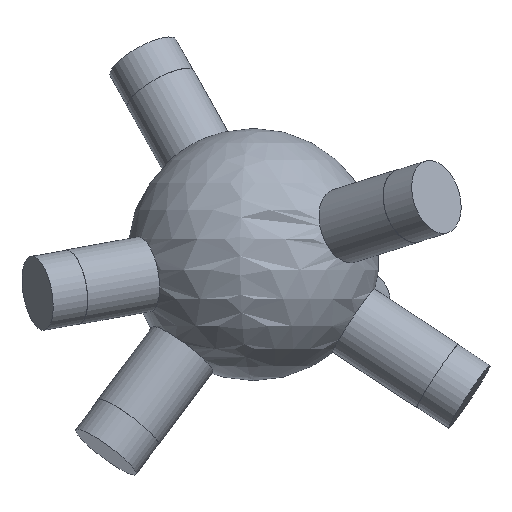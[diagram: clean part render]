
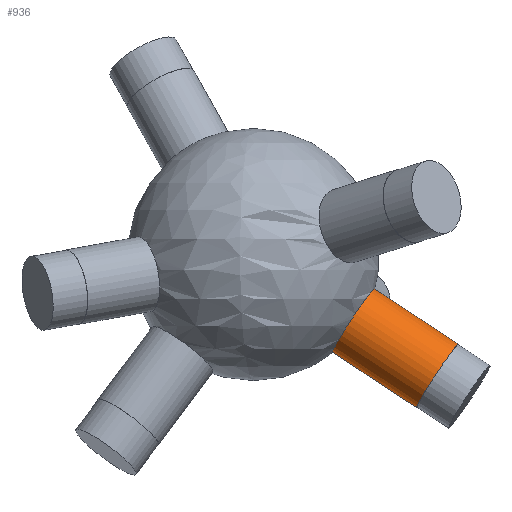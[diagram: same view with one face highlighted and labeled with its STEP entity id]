
A CAD part, left-side view. The second image highlights one B-rep face of the part: STEP entity #936.
In plain terms, the highlighted cylindrical face has radius 6 mm (diameter 12 mm), a full revolution.
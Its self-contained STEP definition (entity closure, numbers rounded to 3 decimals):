
#33 = SPHERICAL_SURFACE('',#34,20.);
#34 = AXIS2_PLACEMENT_3D('',#35,#36,#37);
#35 = CARTESIAN_POINT('',(0.,0.,0.));
#36 = DIRECTION('',(0.,0.,1.));
#37 = DIRECTION('',(1.,0.,-0.));
#400 = EDGE_CURVE('',#401,#401,#403,.T.);
#401 = VERTEX_POINT('',#402);
#402 = CARTESIAN_POINT('',(-1.242,-12.602,
    -15.48));
#403 = SURFACE_CURVE('',#404,(#409,#478),.PCURVE_S1.);
#404 = CIRCLE('',#405,6.);
#405 = AXIS2_PLACEMENT_3D('',#406,#407,#408);
#406 = CARTESIAN_POINT('',(-1.242,-15.902,
    -10.469));
#407 = DIRECTION('',(-0.065,-0.833,-0.549
    ));
#408 = DIRECTION('',(0.,0.55,-0.835)
  );
#409 = PCURVE('',#33,#410);
#410 = DEFINITIONAL_REPRESENTATION('',(#411),#477);
#411 = B_SPLINE_CURVE_WITH_KNOTS('',8,(#412,#413,#414,#415,#416,#417,
    #418,#419,#420,#421,#422,#423,#424,#425,#426,#427,#428,#429,#430,
    #431,#432,#433,#434,#435,#436,#437,#438,#439,#440,#441,#442,#443,
    #444,#445,#446,#447,#448,#449,#450,#451,#452,#453,#454,#455,#456,
    #457,#458,#459,#460,#461,#462,#463,#464,#465,#466,#467,#468,#469,
    #470,#471,#472,#473,#474,#475,#476),.UNSPECIFIED.,.T.,.F.,(9,7,7,7,7
    ,7,7,7,7,9),(0.,0.393,1.129,1.773,
    2.901,3.746,4.381,5.332,
    5.808,6.283),.UNSPECIFIED.);
#412 = CARTESIAN_POINT('',(4.614,-0.885));
#413 = CARTESIAN_POINT('',(4.637,-0.886));
#414 = CARTESIAN_POINT('',(4.661,-0.886));
#415 = CARTESIAN_POINT('',(4.684,-0.884));
#416 = CARTESIAN_POINT('',(4.707,-0.882));
#417 = CARTESIAN_POINT('',(4.73,-0.878));
#418 = CARTESIAN_POINT('',(4.752,-0.874));
#419 = CARTESIAN_POINT('',(4.773,-0.868));
#420 = CARTESIAN_POINT('',(4.831,-0.85));
#421 = CARTESIAN_POINT('',(4.866,-0.834));
#422 = CARTESIAN_POINT('',(4.897,-0.816));
#423 = CARTESIAN_POINT('',(4.924,-0.795));
#424 = CARTESIAN_POINT('',(4.946,-0.772));
#425 = CARTESIAN_POINT('',(4.964,-0.747));
#426 = CARTESIAN_POINT('',(4.978,-0.721));
#427 = CARTESIAN_POINT('',(4.996,-0.672));
#428 = CARTESIAN_POINT('',(5.001,-0.648));
#429 = CARTESIAN_POINT('',(5.004,-0.623));
#430 = CARTESIAN_POINT('',(5.004,-0.599));
#431 = CARTESIAN_POINT('',(5.001,-0.575));
#432 = CARTESIAN_POINT('',(4.996,-0.551));
#433 = CARTESIAN_POINT('',(4.989,-0.528));
#434 = CARTESIAN_POINT('',(4.964,-0.465));
#435 = CARTESIAN_POINT('',(4.941,-0.427));
#436 = CARTESIAN_POINT('',(4.914,-0.392));
#437 = CARTESIAN_POINT('',(4.881,-0.361));
#438 = CARTESIAN_POINT('',(4.845,-0.334));
#439 = CARTESIAN_POINT('',(4.806,-0.313));
#440 = CARTESIAN_POINT('',(4.765,-0.297));
#441 = CARTESIAN_POINT('',(4.69,-0.279));
#442 = CARTESIAN_POINT('',(4.657,-0.274));
#443 = CARTESIAN_POINT('',(4.624,-0.273));
#444 = CARTESIAN_POINT('',(4.591,-0.275));
#445 = CARTESIAN_POINT('',(4.558,-0.281));
#446 = CARTESIAN_POINT('',(4.526,-0.29));
#447 = CARTESIAN_POINT('',(4.495,-0.302));
#448 = CARTESIAN_POINT('',(4.443,-0.328));
#449 = CARTESIAN_POINT('',(4.422,-0.34));
#450 = CARTESIAN_POINT('',(4.402,-0.355));
#451 = CARTESIAN_POINT('',(4.383,-0.371));
#452 = CARTESIAN_POINT('',(4.365,-0.388));
#453 = CARTESIAN_POINT('',(4.348,-0.406));
#454 = CARTESIAN_POINT('',(4.333,-0.426));
#455 = CARTESIAN_POINT('',(4.3,-0.477));
#456 = CARTESIAN_POINT('',(4.283,-0.51));
#457 = CARTESIAN_POINT('',(4.271,-0.545));
#458 = CARTESIAN_POINT('',(4.264,-0.58));
#459 = CARTESIAN_POINT('',(4.262,-0.617));
#460 = CARTESIAN_POINT('',(4.266,-0.653));
#461 = CARTESIAN_POINT('',(4.276,-0.688));
#462 = CARTESIAN_POINT('',(4.302,-0.738));
#463 = CARTESIAN_POINT('',(4.312,-0.754));
#464 = CARTESIAN_POINT('',(4.324,-0.77));
#465 = CARTESIAN_POINT('',(4.338,-0.784));
#466 = CARTESIAN_POINT('',(4.353,-0.799));
#467 = CARTESIAN_POINT('',(4.371,-0.812));
#468 = CARTESIAN_POINT('',(4.39,-0.824));
#469 = CARTESIAN_POINT('',(4.432,-0.846));
#470 = CARTESIAN_POINT('',(4.455,-0.856));
#471 = CARTESIAN_POINT('',(4.479,-0.864));
#472 = CARTESIAN_POINT('',(4.504,-0.872));
#473 = CARTESIAN_POINT('',(4.531,-0.877));
#474 = CARTESIAN_POINT('',(4.558,-0.882));
#475 = CARTESIAN_POINT('',(4.586,-0.884));
#476 = CARTESIAN_POINT('',(4.614,-0.885));
#477 = ( GEOMETRIC_REPRESENTATION_CONTEXT(2) 
PARAMETRIC_REPRESENTATION_CONTEXT() REPRESENTATION_CONTEXT('2D SPACE',''
  ) );
#478 = PCURVE('',#479,#484);
#479 = CYLINDRICAL_SURFACE('',#480,6.);
#480 = AXIS2_PLACEMENT_3D('',#481,#482,#483);
#481 = CARTESIAN_POINT('',(0.,0.,0.));
#482 = DIRECTION('',(-0.065,-0.833,-0.549
    ));
#483 = DIRECTION('',(0.,0.55,-0.835)
  );
#484 = DEFINITIONAL_REPRESENTATION('',(#485),#489);
#485 = LINE('',#486,#487);
#486 = CARTESIAN_POINT('',(0.,19.079));
#487 = VECTOR('',#488,1.);
#488 = DIRECTION('',(1.,0.));
#489 = ( GEOMETRIC_REPRESENTATION_CONTEXT(2) 
PARAMETRIC_REPRESENTATION_CONTEXT() REPRESENTATION_CONTEXT('2D SPACE',''
  ) );
#936 = ADVANCED_FACE('',(#937),#479,.T.);
#937 = FACE_BOUND('',#938,.T.);
#938 = EDGE_LOOP('',(#939,#962,#989,#990));
#939 = ORIENTED_EDGE('',*,*,#940,.T.);
#940 = EDGE_CURVE('',#401,#941,#943,.T.);
#941 = VERTEX_POINT('',#942);
#942 = CARTESIAN_POINT('',(-2.285,-25.949,
    -24.267));
#943 = SEAM_CURVE('',#944,(#948,#955),.PCURVE_S1.);
#944 = LINE('',#945,#946);
#945 = CARTESIAN_POINT('',(0.,3.299,
    -5.011));
#946 = VECTOR('',#947,1.);
#947 = DIRECTION('',(-0.065,-0.833,-0.549
    ));
#948 = PCURVE('',#479,#949);
#949 = DEFINITIONAL_REPRESENTATION('',(#950),#954);
#950 = LINE('',#951,#952);
#951 = CARTESIAN_POINT('',(6.283,-0.));
#952 = VECTOR('',#953,1.);
#953 = DIRECTION('',(0.,1.));
#954 = ( GEOMETRIC_REPRESENTATION_CONTEXT(2) 
PARAMETRIC_REPRESENTATION_CONTEXT() REPRESENTATION_CONTEXT('2D SPACE',''
  ) );
#955 = PCURVE('',#479,#956);
#956 = DEFINITIONAL_REPRESENTATION('',(#957),#961);
#957 = LINE('',#958,#959);
#958 = CARTESIAN_POINT('',(0.,-0.));
#959 = VECTOR('',#960,1.);
#960 = DIRECTION('',(0.,1.));
#961 = ( GEOMETRIC_REPRESENTATION_CONTEXT(2) 
PARAMETRIC_REPRESENTATION_CONTEXT() REPRESENTATION_CONTEXT('2D SPACE',''
  ) );
#962 = ORIENTED_EDGE('',*,*,#963,.F.);
#963 = EDGE_CURVE('',#941,#941,#964,.T.);
#964 = SURFACE_CURVE('',#965,(#970,#977),.PCURVE_S1.);
#965 = CIRCLE('',#966,6.);
#966 = AXIS2_PLACEMENT_3D('',#967,#968,#969);
#967 = CARTESIAN_POINT('',(-2.285,-29.248,
    -19.255));
#968 = DIRECTION('',(-0.065,-0.833,-0.549
    ));
#969 = DIRECTION('',(0.,0.55,-0.835)
  );
#970 = PCURVE('',#479,#971);
#971 = DEFINITIONAL_REPRESENTATION('',(#972),#976);
#972 = LINE('',#973,#974);
#973 = CARTESIAN_POINT('',(0.,35.092));
#974 = VECTOR('',#975,1.);
#975 = DIRECTION('',(1.,0.));
#976 = ( GEOMETRIC_REPRESENTATION_CONTEXT(2) 
PARAMETRIC_REPRESENTATION_CONTEXT() REPRESENTATION_CONTEXT('2D SPACE',''
  ) );
#977 = PCURVE('',#978,#983);
#978 = PLANE('',#979);
#979 = AXIS2_PLACEMENT_3D('',#980,#981,#982);
#980 = CARTESIAN_POINT('',(-2.285,-29.248,
    -19.255));
#981 = DIRECTION('',(-0.065,-0.833,-0.549
    ));
#982 = DIRECTION('',(0.,0.55,-0.835)
  );
#983 = DEFINITIONAL_REPRESENTATION('',(#984),#988);
#984 = CIRCLE('',#985,6.);
#985 = AXIS2_PLACEMENT_2D('',#986,#987);
#986 = CARTESIAN_POINT('',(0.,0.));
#987 = DIRECTION('',(1.,0.));
#988 = ( GEOMETRIC_REPRESENTATION_CONTEXT(2) 
PARAMETRIC_REPRESENTATION_CONTEXT() REPRESENTATION_CONTEXT('2D SPACE',''
  ) );
#989 = ORIENTED_EDGE('',*,*,#940,.F.);
#990 = ORIENTED_EDGE('',*,*,#400,.T.);
